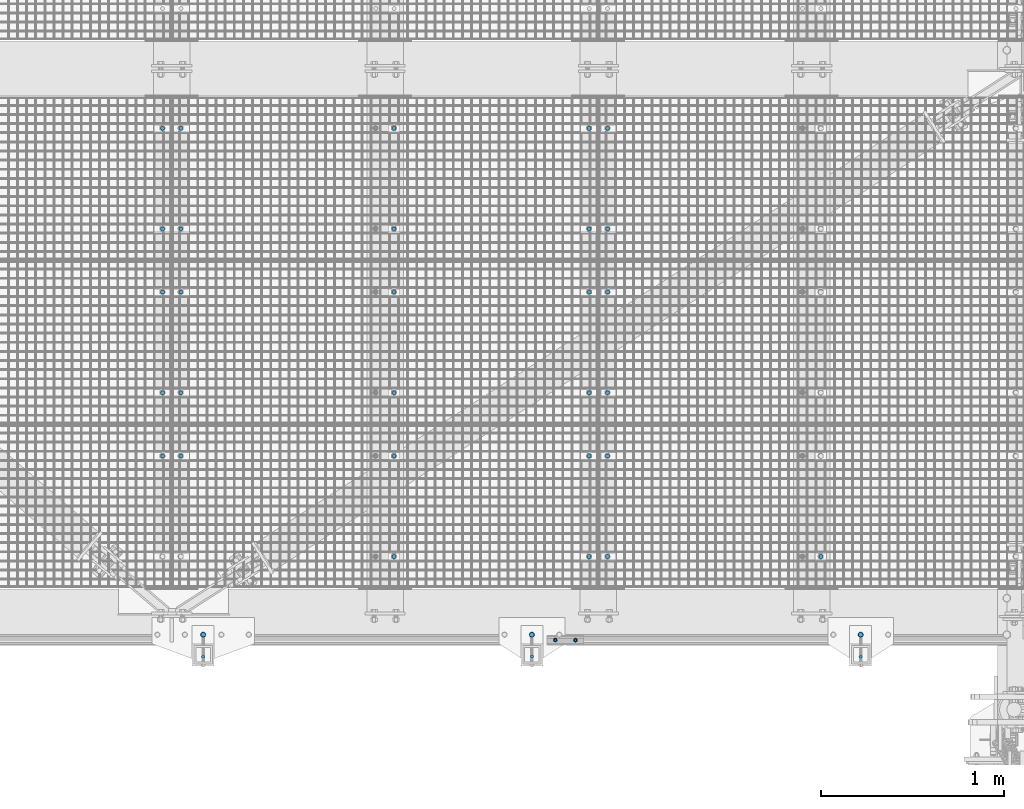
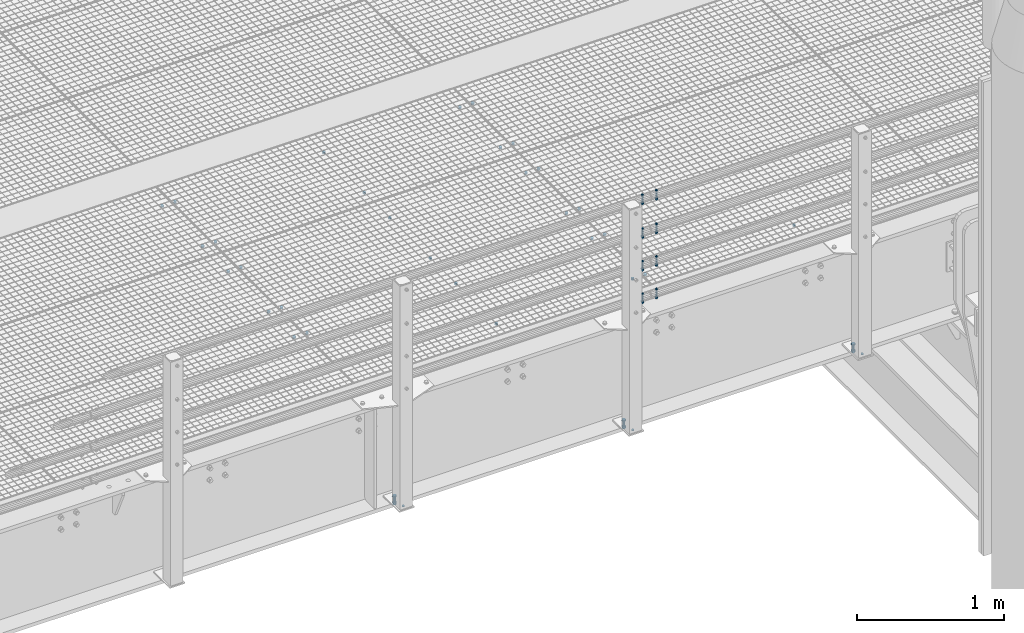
# One storey, part 66 of 1530: 43 mechanical fasteners.
"""IFC2X3 building model written with IfcOpenShell, lengths in millimetres."""

from ifc_helpers import new_model, si_unit, frame, origin_with_axes, place, context, subcontext, project, spatial, faceted_brep, source, transform, mapped, material, type_object, element, save


model = new_model("IFC2X3")

# Units and contexts
model_context = context("Model", 3, precision=1e-05, world=origin_with_axes())
body_context = subcontext(model_context, "Body", "Model", "MODEL_VIEW")
ifc_project = project(units=[si_unit("LENGTHUNIT", "METRE", prefix="MILLI"), si_unit("AREAUNIT", "SQUARE_METRE"), si_unit("VOLUMEUNIT", "CUBIC_METRE"), si_unit("MASSUNIT", "GRAM", prefix="KILO"), si_unit("TIMEUNIT", "SECOND"), si_unit("PLANEANGLEUNIT", "RADIAN"), si_unit("SOLIDANGLEUNIT", "STERADIAN"), si_unit("THERMODYNAMICTEMPERATUREUNIT", "DEGREE_CELSIUS"), si_unit("LUMINOUSINTENSITYUNIT", "LUMEN")], contexts=[model_context])

# Site, building, storey
site_placement = place(None, origin_with_axes())
site = spatial("IfcSite", under=ifc_project, at=site_placement, Name="Brattvåg", CompositionType="ELEMENT")
building_placement = place(site_placement, origin_with_axes())
building = spatial("IfcBuilding", under=site, at=building_placement, Name="Undefined", CompositionType="ELEMENT")
storey_placement = place(building_placement, origin_with_axes())
storey = spatial("IfcBuildingStorey", under=building, at=storey_placement, Name="Undefined", CompositionType="ELEMENT", Elevation=0.0)

# Mechanical fasteners
ifc_material = material(Name="8")
mechanical_fastener_type = type_object("IfcMechanicalFastenerType", Name="Bolt assembly")
shared_shape_1 = source(origin_with_axes(), body_context, "Body", "Brep", [
    faceted_brep([(11.0, -4.99999999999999, 0.0), (9.52627944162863, -4.99999999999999, 5.50000000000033), (5.49999999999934, -4.99999999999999, 9.5262794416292), (-1.13996957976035e-12, -4.99999999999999, 11.0), (-5.50000000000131, -4.99999999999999, 9.52627944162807), (-9.52627944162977, -4.99999999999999, 5.49999999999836), (-11.0, -4.99999999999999, -2.27993915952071e-12), (-9.5262794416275, -4.99999999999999, -5.5000000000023), (-5.49999999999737, -4.99999999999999, -9.52627944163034), (3.40769628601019e-12, -4.99999999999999, -11.0), (5.50000000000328, -4.99999999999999, -9.52627944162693), (9.52627944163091, -4.99999999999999, -5.49999999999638), (9.52627944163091, 10.1, -5.49999999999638), (5.50000000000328, 10.1, -9.52627944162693), (3.40769628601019e-12, 10.1, -11.0), (-5.49999999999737, 10.1, -9.52627944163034), (-9.5262794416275, 10.1, -5.5000000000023), (-11.0, 10.1, -2.27993915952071e-12), (-9.52627944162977, 10.1, 5.49999999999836), (-5.50000000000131, 10.1, 9.52627944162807), (-1.13996957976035e-12, 10.1, 11.0), (5.49999999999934, 10.1, 9.5262794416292), (9.52627944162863, 10.1, 5.50000000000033), (11.0, 10.1, 0.0)], [[[0, 1, 2, 3, 4, 5, 6, 7, 8, 9, 10, 11]], [[12, 13, 14, 15, 16, 17, 18, 19, 20, 21, 22, 23]], [[0, 23, 22, 1]], [[1, 22, 21, 2]], [[2, 21, 20, 3]], [[3, 20, 19, 4]], [[4, 19, 18, 5]], [[5, 18, 17, 6]], [[6, 17, 16, 7]], [[7, 16, 15, 8]], [[8, 15, 14, 9]], [[9, 14, 13, 10]], [[10, 13, 12, 11]], [[11, 12, 23, 0]]]),
])
for number, where, z_axis, x_axis, name in (
    (1, (9964.00477935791, 2121.98931152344, -35.0), (0.0, 1.0, 0.0), (1.0, 0.0, 0.0), "Bolt assembly"),
    (2, (9964.00477935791, 2671.99411010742, -35.0), (0.0, 1.0, 0.0), (1.0, 0.0, 0.0), "Bolt assembly"),
    (3, (9964.00477935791, 1224.98931152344, -35.0), (0.0, 1.0, 0.0), (1.0, 0.0, 0.0), "Bolt assembly"),
    (4, (9964.00477935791, 1774.99411010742, -35.0), (0.0, 1.0, 0.0), (1.0, 0.0, 0.0), "Bolt assembly"),
    (5, (9964.00477935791, 327.989311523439, -35.0), (0.0, 1.0, 0.0), (1.0, 0.0, 0.0), "Bolt assembly"),
    (6, (9964.00477935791, 877.994110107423, -35.0), (0.0, 1.0, 0.0), (1.0, 0.0, 0.0), "Bolt assembly"),
    (7, (11132.0119254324, 327.99, -35.0), (0.0, -1.0, 0.0), (-1.0, 1.99999855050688e-09, 0.0), "Bolt assembly"),
    (8, (7628.00477935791, 2121.98931152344, -35.0), (0.0, 1.0, 0.0), (1.0, 0.0, 0.0), "Bolt assembly"),
    (9, (7628.00477935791, 2671.99411010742, -35.0), (0.0, 1.0, 0.0), (1.0, 0.0, 0.0), "Bolt assembly"),
    (10, (9864.01487731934, 2671.99411010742, -35.0), (0.0, -1.0, 0.0), (-1.0, 1.99999855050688e-09, 0.0), "Bolt assembly"),
    (11, (9864.01487731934, 2121.9904864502, -35.0), (0.0, -1.0, 0.0), (-1.0, 1.99999855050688e-09, 0.0), "Bolt assembly"),
    (12, (8796.01456069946, 2671.99565124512, -35.0), (0.0, -1.0, 0.0), (-1.0, 1.99999855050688e-09, 0.0), "Bolt assembly"),
    (13, (8796.01192543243, 2121.99, -35.0), (0.0, -1.0, 0.0), (-1.0, 1.99999855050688e-09, 0.0), "Bolt assembly"),
    (14, (7628.00477935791, 1224.98931152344, -35.0), (0.0, 1.0, 0.0), (1.0, 0.0, 0.0), "Bolt assembly"),
    (15, (7628.00477935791, 1774.99411010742, -35.0), (0.0, 1.0, 0.0), (1.0, 0.0, 0.0), "Bolt assembly"),
    (16, (9864.01487731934, 1774.99411010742, -35.0), (0.0, -1.0, 0.0), (-1.0, 1.99999855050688e-09, 0.0), "Bolt assembly"),
    (17, (9864.01487731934, 1224.9904864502, -35.0), (0.0, -1.0, 0.0), (-1.0, 1.99999855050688e-09, 0.0), "Bolt assembly"),
    (18, (8796.01456069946, 1774.99565124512, -35.0), (0.0, -1.0, 0.0), (-1.0, 1.99999855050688e-09, 0.0), "Bolt assembly"),
    (19, (8796.01192543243, 1224.99, -35.0), (0.0, -1.0, 0.0), (-1.0, 1.99999855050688e-09, 0.0), "Bolt assembly"),
    (20, (7628.00477935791, 877.994110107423, -35.0), (0.0, 1.0, 0.0), (1.0, 0.0, 0.0), "Bolt assembly"),
    (21, (9864.01487731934, 877.994110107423, -35.0), (0.0, -1.0, 0.0), (-1.0, 1.99999855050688e-09, 0.0), "Bolt assembly"),
    (22, (9864.01487731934, 327.990486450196, -35.0), (0.0, -1.0, 0.0), (-1.0, 1.99999855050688e-09, 0.0), "Bolt assembly"),
    (23, (8796.01456069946, 877.995651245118, -35.0), (0.0, -1.0, 0.0), (-1.0, 1.99999855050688e-09, 0.0), "Bolt assembly"),
    (24, (8796.01192543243, 327.99, -35.0), (0.0, -1.0, 0.0), (-1.0, 1.99999855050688e-09, 0.0), "Bolt assembly"),
    (25, (7528.01487731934, 2671.99411010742, -35.0), (0.0, -1.0, 0.0), (-1.0, 1.99999855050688e-09, 0.0), "Bolt assembly"),
    (26, (7528.01487731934, 2121.9904864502, -35.0), (0.0, -1.0, 0.0), (-1.0, 1.99999855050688e-09, 0.0), "Bolt assembly"),
    (27, (7528.01487731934, 1774.99411010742, -35.0), (0.0, -1.0, 0.0), (-1.0, 1.99999855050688e-09, 0.0), "Bolt assembly"),
    (28, (7528.01487731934, 1224.9904864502, -35.0), (0.0, -1.0, 0.0), (-1.0, 1.99999855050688e-09, 0.0), "Bolt assembly"),
    (29, (7528.01487731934, 877.994110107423, -35.0), (0.0, -1.0, 0.0), (-1.0, 1.99999855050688e-09, 0.0), "Bolt assembly"),
):
    element("IfcMechanicalFastener", number, at=place(storey_placement, frame(where, z_axis=z_axis, x_axis=x_axis)), inside=storey, type_object=mechanical_fastener_type, material=ifc_material, Name=name, NominalDiameter=20.0, NominalLength=15.0, context=body_context, shape_type="MappedRepresentation", body=[
        mapped(shared_shape_1, transform((0.0, 0.0, 0.0))),
    ])
shared_shape_2 = source(origin_with_axes(), body_context, "Body", "Brep", [
    faceted_brep([(9.0, -0.000108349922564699, 0.0), (7.79422863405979, -0.000108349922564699, 4.50000000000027), (4.49999999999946, -0.000108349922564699, 7.79422863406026), (-9.3270238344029e-13, -0.000108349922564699, 9.0), (-4.50000000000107, -0.000108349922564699, 7.79422863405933), (-7.79422863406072, -0.000108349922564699, 4.49999999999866), (-9.0, -0.000108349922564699, -1.86540476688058e-12), (-7.79422863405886, -0.000108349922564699, -4.50000000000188), (-4.49999999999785, -0.000108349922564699, -7.79422863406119), (2.78811514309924e-12, -0.000108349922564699, -9.0), (4.50000000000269, -0.000108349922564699, -7.7942286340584), (7.79422863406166, -0.000108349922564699, -4.49999999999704), (7.79422863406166, 10.0998916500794, -4.49999999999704), (4.50000000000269, 10.0998916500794, -7.7942286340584), (2.78811514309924e-12, 10.0998916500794, -9.0), (-4.49999999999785, 10.0998916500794, -7.79422863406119), (-7.79422863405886, 10.0998916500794, -4.50000000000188), (-9.0, 10.0998916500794, -1.86540476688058e-12), (-7.79422863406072, 10.0998916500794, 4.49999999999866), (-4.50000000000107, 10.0998916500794, 7.79422863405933), (-9.3270238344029e-13, 10.0998916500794, 9.0), (4.49999999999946, 10.0998916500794, 7.79422863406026), (7.79422863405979, 10.0998916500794, 4.50000000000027), (9.0, 10.0998916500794, 0.0)], [[[0, 1, 2, 3, 4, 5, 6, 7, 8, 9, 10, 11]], [[12, 13, 14, 15, 16, 17, 18, 19, 20, 21, 22, 23]], [[0, 23, 22, 1]], [[1, 22, 21, 2]], [[2, 21, 20, 3]], [[3, 20, 19, 4]], [[4, 19, 18, 5]], [[5, 18, 17, 6]], [[6, 17, 16, 7]], [[7, 16, 15, 8]], [[8, 15, 14, 9]], [[9, 14, 13, 10]], [[10, 13, 12, 11]], [[11, 12, 23, 0]]]),
])
for number, where, z_axis, x_axis, name in (
    (30, (11350.0001602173, -219.999950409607, -845.000278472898), (-1.0, 1.99999855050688e-09, 0.0), (0.0, 0.999999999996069, 2.80400000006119e-06), "Bolt assembly"),
    (31, (9550.00016021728, -219.999950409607, -845.000278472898), (-1.0, 1.99999855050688e-09, 0.0), (0.0, 0.999999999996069, 2.80400000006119e-06), "Bolt assembly"),
    (32, (7750.00016021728, -219.999950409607, -845.000278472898), (-1.0, 1.99999855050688e-09, 0.0), (0.0, 0.999999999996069, 2.80400000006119e-06), "Bolt assembly"),
):
    element("IfcMechanicalFastener", number, at=place(storey_placement, frame(where, z_axis=z_axis, x_axis=x_axis)), inside=storey, type_object=mechanical_fastener_type, material=ifc_material, Name=name, NominalDiameter=16.0, NominalLength=10.0001087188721, context=body_context, shape_type="MappedRepresentation", body=[
        mapped(shared_shape_2, transform((0.0, 0.0, 0.0))),
    ])
shared_shape_3 = source(origin_with_axes(), body_context, "Body", "Brep", [
    faceted_brep([(6.49435320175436, -7.50000000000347, 0.0), (4.59220118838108, -7.50000000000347, 4.59220118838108), (3.97664443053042e-16, -7.50000000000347, 6.49435320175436), (-4.59220118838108, -7.50000000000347, 4.59220118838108), (-6.49435320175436, -7.50000000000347, 7.95328886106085e-16), (-4.59220118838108, -7.50000000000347, -4.59220118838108), (-1.19299332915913e-15, -7.50000000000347, -6.49435320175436), (4.59220118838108, -7.50000000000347, -4.59220118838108), (7.34846922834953, -3.46744855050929e-12, -7.34846922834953), (-1.90903542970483e-15, -3.46744855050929e-12, -10.3923048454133), (-7.34846922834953, -3.46744855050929e-12, -7.34846922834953), (-10.3923048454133, 3.46808519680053e-07, 1.27269028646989e-15), (-7.34846922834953, -3.46744855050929e-12, 7.34846922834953), (6.36345143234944e-16, -3.46744855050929e-12, 10.3923048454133), (7.34846922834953, -3.46744855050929e-12, 7.34846922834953), (10.3923048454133, 3.46808519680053e-07, 0.0), (6.0, 3.46808519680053e-07, 0.0), (5.19615242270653, 3.46808519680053e-07, 3.00000000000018), (2.99999999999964, 3.46808519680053e-07, 5.19615242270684), (-6.21801588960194e-13, 3.46808519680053e-07, 6.0), (-3.00000000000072, 3.46808519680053e-07, 5.19615242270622), (-5.19615242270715, 3.46808519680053e-07, 2.9999999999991), (-6.0, 3.46808519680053e-07, -1.24360317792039e-12), (-5.19615242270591, 3.46808519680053e-07, -3.00000000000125), (-2.99999999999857, 3.46808519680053e-07, -5.19615242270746), (1.85874342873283e-12, 3.46808519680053e-07, -6.0), (3.00000000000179, 3.46808519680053e-07, -5.1961524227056), (5.19615242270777, 3.46808519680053e-07, -2.99999999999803), (5.19615242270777, 79.9999999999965, -2.99999999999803), (3.00000000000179, 79.9999999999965, -5.1961524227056), (1.85874342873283e-12, 79.9999999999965, -6.0), (-2.99999999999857, 79.9999999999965, -5.19615242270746), (-5.19615242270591, 79.9999999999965, -3.00000000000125), (-6.0, 79.9999999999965, -1.24360317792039e-12), (-5.19615242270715, 79.9999999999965, 2.9999999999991), (-3.00000000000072, 79.9999999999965, 5.19615242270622), (-6.21801588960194e-13, 79.9999999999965, 6.0), (2.99999999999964, 79.9999999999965, 5.19615242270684), (5.19615242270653, 79.9999999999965, 3.00000000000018), (6.0, 79.9999999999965, 0.0), (12.0, 60.2988956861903, 0.0), (10.3923048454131, 60.2988956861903, 6.00000000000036), (5.99999999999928, 60.2988956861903, 10.3923048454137), (-1.24360317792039e-12, 60.2988956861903, 12.0), (-6.00000000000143, 60.2988956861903, 10.3923048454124), (-10.3923048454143, 60.2988956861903, 5.99999999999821), (-12.0, 60.2988956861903, -2.48720635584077e-12), (-10.3923048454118, 60.2988956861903, -6.00000000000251), (-5.99999999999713, 60.2988956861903, -10.3923048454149), (3.71748685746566e-12, 60.2988956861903, -12.0), (6.00000000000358, 60.2988956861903, -10.3923048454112), (10.3923048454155, 60.2988956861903, -5.99999999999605), (10.3923048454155, 62.7988956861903, -5.99999999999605), (6.00000000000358, 62.7988956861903, -10.3923048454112), (3.71748685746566e-12, 62.7988956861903, -12.0), (-5.99999999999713, 62.7988956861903, -10.3923048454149), (-10.3923048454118, 62.7988956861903, -6.00000000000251), (-12.0, 62.7988956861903, -2.48720635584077e-12), (-10.3923048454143, 62.7988956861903, 5.99999999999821), (-6.00000000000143, 62.7988956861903, 10.3923048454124), (-1.24360317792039e-12, 62.7988956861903, 12.0), (5.99999999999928, 62.7988956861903, 10.3923048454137), (10.3923048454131, 62.7988956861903, 6.00000000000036), (12.0, 62.7988956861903, 0.0), (10.9696551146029, 62.7988956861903, 0.0), (5.48482755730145, 62.7988956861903, 9.5), (-5.48482755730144, 62.7988956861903, 9.5), (-10.9696551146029, 62.7988956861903, 1.34339530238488e-15), (-5.48482755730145, 62.7988956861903, -9.5), (5.48482755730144, 62.7988956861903, -9.5), (5.48482755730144, 73.5988958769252, -9.5), (-5.48482755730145, 73.5988958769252, -9.5), (-10.9696551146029, 73.5988958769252, 1.34339530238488e-15), (-5.48482755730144, 73.5988958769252, 9.5), (5.48482755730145, 73.5988958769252, 9.5), (10.9696551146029, 73.5988958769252, 0.0)], [[[0, 1, 2, 3, 4, 5, 6, 7]], [[8, 9, 10, 11, 12, 13, 14, 15]], [[0, 15, 14, 1]], [[1, 14, 13, 2]], [[2, 13, 12, 3]], [[3, 12, 11, 4]], [[4, 11, 10, 5]], [[5, 10, 9, 6]], [[6, 9, 8, 7]], [[7, 8, 15, 0]], [[16, 17, 18, 19, 20, 21, 22, 23, 24, 25, 26, 27]], [[28, 29, 30, 31, 32, 33, 34, 35, 36, 37, 38, 39]], [[16, 39, 38, 17]], [[17, 38, 37, 18]], [[18, 37, 36, 19]], [[19, 36, 35, 20]], [[20, 35, 34, 21]], [[21, 34, 33, 22]], [[22, 33, 32, 23]], [[23, 32, 31, 24]], [[24, 31, 30, 25]], [[25, 30, 29, 26]], [[26, 29, 28, 27]], [[27, 28, 39, 16]], [[40, 41, 42, 43, 44, 45, 46, 47, 48, 49, 50, 51]], [[52, 53, 54, 55, 56, 57, 58, 59, 60, 61, 62, 63]], [[40, 63, 62, 41]], [[41, 62, 61, 42]], [[42, 61, 60, 43]], [[43, 60, 59, 44]], [[44, 59, 58, 45]], [[45, 58, 57, 46]], [[46, 57, 56, 47]], [[47, 56, 55, 48]], [[48, 55, 54, 49]], [[49, 54, 53, 50]], [[50, 53, 52, 51]], [[51, 52, 63, 40]], [[64, 65, 66, 67, 68, 69]], [[70, 71, 72, 73, 74, 75]], [[64, 75, 74, 65]], [[65, 74, 73, 66]], [[66, 73, 72, 67]], [[67, 72, 71, 68]], [[68, 71, 70, 69]], [[69, 70, 75, 64]]]),
    faceted_brep([(6.5, 0.100000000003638, 0.0), (5.62916512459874, 0.100000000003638, 3.25000000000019), (3.24999999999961, 0.100000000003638, 5.62916512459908), (-6.7361838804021e-13, 0.100000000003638, 6.5), (-3.25000000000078, 0.100000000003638, 5.6291651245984), (-5.62916512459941, 0.100000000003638, 3.24999999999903), (-6.5, 0.100000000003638, -1.34723677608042e-12), (-5.62916512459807, 0.100000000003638, -3.25000000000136), (-3.24999999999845, 0.100000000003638, -5.62916512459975), (2.01363871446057e-12, 0.100000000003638, -6.5), (3.25000000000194, 0.100000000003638, -5.62916512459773), (5.62916512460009, 0.100000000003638, -3.24999999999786), (5.62916512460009, 60.3988956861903, -3.24999999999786), (3.25000000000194, 60.3988956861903, -5.62916512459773), (2.01363871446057e-12, 60.3988956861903, -6.5), (-3.24999999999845, 60.3988956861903, -5.62916512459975), (-5.62916512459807, 60.3988956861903, -3.25000000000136), (-6.5, 60.3988956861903, -1.34723677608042e-12), (-5.62916512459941, 60.3988956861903, 3.24999999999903), (-3.25000000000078, 60.3988956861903, 5.6291651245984), (-6.7361838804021e-13, 60.3988956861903, 6.5), (3.24999999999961, 60.3988956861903, 5.62916512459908), (5.62916512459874, 60.3988956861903, 3.25000000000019), (6.5, 60.3988956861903, 0.0), (6.5, 4.25026510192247, 0.0), (5.62916512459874, 4.25026510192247, 3.25000000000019), (3.24999999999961, 4.25026510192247, 5.62916512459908), (-6.7361838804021e-13, 4.25026510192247, 6.5), (-3.25000000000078, 4.25026510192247, 5.6291651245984), (-5.62916512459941, 4.25026510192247, 3.24999999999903), (-6.5, 4.25026510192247, -1.34723677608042e-12), (-5.62916512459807, 4.25026510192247, -3.25000000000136), (-3.24999999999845, 4.25026510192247, -5.62916512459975), (2.01363871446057e-12, 4.25026510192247, -6.5), (3.25000000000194, 4.25026510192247, -5.62916512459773), (5.62916512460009, 4.25026510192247, -3.24999999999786), (5.62916512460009, 55.3491717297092, -3.24999999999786), (3.25000000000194, 55.3491717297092, -5.62916512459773), (2.01363871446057e-12, 55.3491717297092, -6.5), (-3.24999999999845, 55.3491717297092, -5.62916512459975), (-5.62916512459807, 55.3491717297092, -3.25000000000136), (-6.5, 55.3491717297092, -1.34723677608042e-12), (-5.62916512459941, 55.3491717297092, 3.24999999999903), (-3.25000000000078, 55.3491717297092, 5.6291651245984), (-6.7361838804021e-13, 55.3491717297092, 6.5), (3.24999999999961, 55.3491717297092, 5.62916512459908), (5.62916512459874, 55.3491717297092, 3.25000000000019), (6.5, 55.3491717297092, 0.0)], [[[0, 1, 2, 3, 4, 5, 6, 7, 8, 9, 10, 11]], [[12, 13, 14, 15, 16, 17, 18, 19, 20, 21, 22, 23]], [[0, 23, 22, 1]], [[1, 22, 21, 2]], [[2, 21, 20, 3]], [[3, 20, 19, 4]], [[4, 19, 18, 5]], [[5, 18, 17, 6]], [[6, 17, 16, 7]], [[7, 16, 15, 8]], [[8, 15, 14, 9]], [[9, 14, 13, 10]], [[10, 13, 12, 11]], [[11, 12, 23, 0]], [[24, 25, 26, 27, 28, 29, 30, 31, 32, 33, 34, 35]], [[36, 37, 38, 39, 40, 41, 42, 43, 44, 45, 46, 47]], [[24, 47, 46, 25]], [[25, 46, 45, 26]], [[26, 45, 44, 27]], [[27, 44, 43, 28]], [[28, 43, 42, 29]], [[29, 42, 41, 30]], [[30, 41, 40, 31]], [[31, 40, 39, 32]], [[32, 39, 38, 33]], [[33, 38, 37, 34]], [[34, 37, 36, 35]], [[35, 36, 47, 24]]]),
])
for number, where, z_axis, x_axis, name in (
    (33, (9678.00013732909, -129.849880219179, 179.7000579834), (-1.0, 1.99999855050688e-09, 0.0), (0.0, 0.999999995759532, -9.2091999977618e-05), "Bolt assembly"),
    (34, (9678.00013732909, -129.849880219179, 449.7000579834), (-1.0, 1.99999855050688e-09, 0.0), (0.0, 0.999999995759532, -9.2091999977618e-05), "Bolt assembly"),
    (35, (9678.00013732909, -129.849880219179, 719.7000579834), (-1.0, 1.99999855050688e-09, 0.0), (0.0, 0.999999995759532, -9.2091999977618e-05), "Bolt assembly"),
    (36, (9787.99986267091, -129.849880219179, 179.7000579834), (-1.0, 1.99999855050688e-09, 0.0), (0.0, 0.999999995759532, -9.2091999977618e-05), "Bolt assembly"),
    (37, (9787.99986267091, -129.849880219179, 449.7000579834), (-1.0, 1.99999855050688e-09, 0.0), (0.0, 0.999999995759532, -9.2091999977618e-05), "Bolt assembly"),
    (38, (9787.99986267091, -129.849880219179, 719.7000579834), (-1.0, 1.99999855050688e-09, 0.0), (0.0, 0.999999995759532, -9.2091999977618e-05), "Bolt assembly"),
    (39, (9678.00013732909, -129.849880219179, 999.7000579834), (-1.0, 1.99999855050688e-09, 0.0), (0.0, 0.999999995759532, -9.2091999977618e-05), "Bolt assembly"),
    (40, (9787.99986267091, -129.849880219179, 999.7000579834), (-1.0, 1.99999855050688e-09, 0.0), (0.0, 0.999999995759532, -9.2091999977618e-05), "Bolt assembly"),
):
    element("IfcMechanicalFastener", number, at=place(storey_placement, frame(where, z_axis=z_axis, x_axis=x_axis)), inside=storey, type_object=mechanical_fastener_type, material=ifc_material, Name=name, NominalDiameter=12.0, NominalLength=80.0, context=body_context, shape_type="MappedRepresentation", body=[
        mapped(shared_shape_3, transform((0.0, 0.0, 0.0))),
    ])
shared_shape_4 = source(origin_with_axes(), body_context, "Body", "Brep", [
    faceted_brep([(13.856406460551, -12.9998916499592, 0.0), (6.92820323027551, -12.9998916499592, 12.0), (-6.92820323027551, -12.9998916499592, 12.0), (-13.856406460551, -12.9998916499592, 1.69692038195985e-15), (-6.92820323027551, -12.9998916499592, -12.0), (6.9282032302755, -12.9998916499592, -12.0), (6.9282032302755, -2.99989164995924, -12.0), (-6.92820323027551, -2.99989164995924, -12.0), (-13.856406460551, -2.99989164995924, 1.69692038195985e-15), (-6.92820323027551, -2.99989164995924, 12.0), (6.92820323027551, -2.99989164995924, 12.0), (13.856406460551, -2.99989164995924, 0.0), (8.0, -2.99989164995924, 0.0), (6.92820323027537, -2.99989164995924, 4.00000000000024), (3.99999999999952, -2.99989164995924, 6.92820323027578), (-8.29068785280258e-13, -2.99989164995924, 8.0), (-4.00000000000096, -2.99989164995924, 6.92820323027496), (-6.9282032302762, -2.99989164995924, 3.99999999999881), (-8.0, -2.99989164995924, -1.65813757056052e-12), (-6.92820323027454, -2.99989164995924, -4.00000000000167), (-3.99999999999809, -2.99989164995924, -6.92820323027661), (2.47832457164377e-12, -2.99989164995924, -8.0), (4.00000000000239, -2.99989164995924, -6.92820323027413), (6.92820323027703, -2.99989164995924, -3.99999999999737), (6.92820323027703, 67.0001083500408, -3.99999999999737), (4.00000000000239, 67.0001083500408, -6.92820323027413), (2.47832457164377e-12, 67.0001083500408, -8.0), (-3.99999999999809, 67.0001083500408, -6.92820323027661), (-6.92820323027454, 67.0001083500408, -4.00000000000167), (-8.0, 67.0001083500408, -1.65813757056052e-12), (-6.9282032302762, 67.0001083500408, 3.99999999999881), (-4.00000000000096, 67.0001083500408, 6.92820323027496), (-8.29068785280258e-13, 67.0001083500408, 8.0), (3.99999999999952, 67.0001083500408, 6.92820323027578), (6.92820323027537, 67.0001083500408, 4.00000000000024), (8.0, 67.0001083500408, 0.0), (15.0, -2.99989164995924, 0.0), (12.9903810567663, -2.99989164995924, 7.50000000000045), (7.4999999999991, -2.99989164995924, 12.9903810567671), (-1.55450397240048e-12, -2.99989164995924, 15.0), (-7.50000000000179, -2.99989164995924, 12.9903810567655), (-12.9903810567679, -2.99989164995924, 7.49999999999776), (-15.0, -2.99989164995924, -3.10900794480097e-12), (-12.9903810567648, -2.99989164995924, -7.50000000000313), (-7.49999999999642, -2.99989164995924, -12.9903810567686), (4.64685857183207e-12, -2.99989164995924, -15.0), (7.50000000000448, -2.99989164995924, -12.990381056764), (12.9903810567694, -2.99989164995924, -7.49999999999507), (12.9903810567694, 0.000108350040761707, -7.49999999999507), (7.50000000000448, 0.000108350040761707, -12.990381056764), (4.64685857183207e-12, 0.000108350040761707, -15.0), (-7.49999999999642, 0.000108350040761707, -12.9903810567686), (-12.9903810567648, 0.000108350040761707, -7.50000000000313), (-15.0, 0.000108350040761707, -3.10900794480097e-12), (-12.9903810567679, 0.000108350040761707, 7.49999999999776), (-7.50000000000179, 0.000108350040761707, 12.9903810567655), (-1.55450397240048e-12, 0.000108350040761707, 15.0), (7.4999999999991, 0.000108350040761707, 12.9903810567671), (12.9903810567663, 0.000108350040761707, 7.50000000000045), (15.0, 0.000108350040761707, 0.0), (15.0, 45.0001982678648, 0.0), (12.9903810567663, 45.0001982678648, 7.50000000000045), (7.4999999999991, 45.0001982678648, 12.9903810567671), (-1.55450397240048e-12, 45.0001982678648, 15.0), (-7.50000000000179, 45.0001982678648, 12.9903810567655), (-12.9903810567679, 45.0001982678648, 7.49999999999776), (-15.0, 45.0001982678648, -3.10900794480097e-12), (-12.9903810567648, 45.0001982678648, -7.50000000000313), (-7.49999999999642, 45.0001982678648, -12.9903810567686), (4.64685857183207e-12, 45.0001982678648, -15.0), (7.50000000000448, 45.0001982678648, -12.990381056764), (12.9903810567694, 45.0001982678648, -7.49999999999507), (12.9903810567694, 48.0001982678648, -7.49999999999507), (7.50000000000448, 48.0001982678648, -12.990381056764), (4.64685857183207e-12, 48.0001982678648, -15.0), (-7.49999999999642, 48.0001982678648, -12.9903810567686), (-12.9903810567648, 48.0001982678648, -7.50000000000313), (-15.0, 48.0001982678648, -3.10900794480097e-12), (-12.9903810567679, 48.0001982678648, 7.49999999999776), (-7.50000000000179, 48.0001982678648, 12.9903810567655), (-1.55450397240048e-12, 48.0001982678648, 15.0), (7.4999999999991, 48.0001982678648, 12.9903810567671), (12.9903810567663, 48.0001982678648, 7.50000000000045), (15.0, 48.0001982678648, 0.0), (13.856406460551, 48.0001982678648, 0.0), (6.92820323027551, 48.0001982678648, 12.0), (-6.92820323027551, 48.0001982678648, 12.0), (-13.856406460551, 48.0001982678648, 1.69692038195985e-15), (-6.92820323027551, 48.0001982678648, -12.0), (6.9282032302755, 48.0001982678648, -12.0), (6.9282032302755, 62.8001984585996, -12.0), (-6.92820323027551, 62.8001984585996, -12.0), (-13.856406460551, 62.8001984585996, 1.69692038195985e-15), (-6.92820323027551, 62.8001984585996, 12.0), (6.92820323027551, 62.8001984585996, 12.0), (13.856406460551, 62.8001984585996, 0.0)], [[[0, 1, 2, 3, 4, 5]], [[6, 7, 8, 9, 10, 11]], [[0, 11, 10, 1]], [[1, 10, 9, 2]], [[2, 9, 8, 3]], [[3, 8, 7, 4]], [[4, 7, 6, 5]], [[5, 6, 11, 0]], [[12, 13, 14, 15, 16, 17, 18, 19, 20, 21, 22, 23]], [[24, 25, 26, 27, 28, 29, 30, 31, 32, 33, 34, 35]], [[12, 35, 34, 13]], [[13, 34, 33, 14]], [[14, 33, 32, 15]], [[15, 32, 31, 16]], [[16, 31, 30, 17]], [[17, 30, 29, 18]], [[18, 29, 28, 19]], [[19, 28, 27, 20]], [[20, 27, 26, 21]], [[21, 26, 25, 22]], [[22, 25, 24, 23]], [[23, 24, 35, 12]], [[36, 37, 38, 39, 40, 41, 42, 43, 44, 45, 46, 47]], [[48, 49, 50, 51, 52, 53, 54, 55, 56, 57, 58, 59]], [[36, 59, 58, 37]], [[37, 58, 57, 38]], [[38, 57, 56, 39]], [[39, 56, 55, 40]], [[40, 55, 54, 41]], [[41, 54, 53, 42]], [[42, 53, 52, 43]], [[43, 52, 51, 44]], [[44, 51, 50, 45]], [[45, 50, 49, 46]], [[46, 49, 48, 47]], [[47, 48, 59, 36]], [[60, 61, 62, 63, 64, 65, 66, 67, 68, 69, 70, 71]], [[72, 73, 74, 75, 76, 77, 78, 79, 80, 81, 82, 83]], [[60, 83, 82, 61]], [[61, 82, 81, 62]], [[62, 81, 80, 63]], [[63, 80, 79, 64]], [[64, 79, 78, 65]], [[65, 78, 77, 66]], [[66, 77, 76, 67]], [[67, 76, 75, 68]], [[68, 75, 74, 69]], [[69, 74, 73, 70]], [[70, 73, 72, 71]], [[71, 72, 83, 60]], [[84, 85, 86, 87, 88, 89]], [[90, 91, 92, 93, 94, 95]], [[84, 95, 94, 85]], [[85, 94, 93, 86]], [[86, 93, 92, 87]], [[87, 92, 91, 88]], [[88, 91, 90, 89]], [[89, 90, 95, 84]]]),
    faceted_brep([(9.0, 0.100108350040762, 0.0), (7.79422863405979, 0.100108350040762, 4.50000000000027), (4.49999999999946, 0.100108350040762, 7.79422863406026), (-9.3270238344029e-13, 0.100108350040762, 9.0), (-4.50000000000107, 0.100108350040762, 7.79422863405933), (-7.79422863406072, 0.100108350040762, 4.49999999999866), (-9.0, 0.100108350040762, -1.86540476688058e-12), (-7.79422863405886, 0.100108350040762, -4.50000000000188), (-4.49999999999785, 0.100108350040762, -7.79422863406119), (2.78811514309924e-12, 0.100108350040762, -9.0), (4.50000000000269, 0.100108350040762, -7.7942286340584), (7.79422863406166, 0.100108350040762, -4.49999999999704), (7.79422863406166, 10.10010835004, -4.49999999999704), (4.50000000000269, 10.10010835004, -7.7942286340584), (2.78811514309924e-12, 10.10010835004, -9.0), (-4.49999999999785, 10.10010835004, -7.79422863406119), (-7.79422863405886, 10.10010835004, -4.50000000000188), (-9.0, 10.10010835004, -1.86540476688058e-12), (-7.79422863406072, 10.10010835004, 4.49999999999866), (-4.50000000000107, 10.10010835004, 7.79422863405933), (-9.3270238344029e-13, 10.10010835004, 9.0), (4.49999999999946, 10.10010835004, 7.79422863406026), (7.79422863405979, 10.10010835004, 4.50000000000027), (9.0, 10.10010835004, 0.0), (9.0, 10.0002383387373, 0.0), (7.79422863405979, 10.0002383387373, 4.50000000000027), (4.49999999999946, 10.0002383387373, 7.79422863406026), (-9.3270238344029e-13, 10.0002383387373, 9.0), (-4.50000000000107, 10.0002383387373, 7.79422863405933), (-7.79422863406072, 10.0002383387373, 4.49999999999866), (-9.0, 10.0002383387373, -1.86540476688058e-12), (-7.79422863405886, 10.0002383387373, -4.50000000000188), (-4.49999999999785, 10.0002383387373, -7.79422863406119), (2.78811514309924e-12, 10.0002383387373, -9.0), (4.50000000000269, 10.0002383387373, -7.7942286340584), (7.79422863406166, 10.0002383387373, -4.49999999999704), (7.79422863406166, 15.000238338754, -4.49999999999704), (4.50000000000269, 15.000238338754, -7.7942286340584), (2.78811514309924e-12, 15.000238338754, -9.0), (-4.49999999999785, 15.000238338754, -7.79422863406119), (-7.79422863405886, 15.000238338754, -4.50000000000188), (-9.0, 15.000238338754, -1.86540476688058e-12), (-7.79422863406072, 15.000238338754, 4.49999999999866), (-4.50000000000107, 15.000238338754, 7.79422863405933), (-9.3270238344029e-13, 15.000238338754, 9.0), (4.49999999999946, 15.000238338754, 7.79422863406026), (7.79422863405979, 15.000238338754, 4.50000000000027), (9.0, 15.000238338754, 0.0), (9.0, 14.9001982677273, 0.0), (7.79422863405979, 14.9001982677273, 4.50000000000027), (4.49999999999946, 14.9001982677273, 7.79422863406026), (-9.3270238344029e-13, 14.9001982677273, 9.0), (-4.50000000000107, 14.9001982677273, 7.79422863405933), (-7.79422863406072, 14.9001982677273, 4.49999999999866), (-9.0, 14.9001982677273, -1.86540476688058e-12), (-7.79422863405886, 14.9001982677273, -4.50000000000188), (-4.49999999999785, 14.9001982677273, -7.79422863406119), (2.78811514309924e-12, 14.9001982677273, -9.0), (4.50000000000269, 14.9001982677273, -7.7942286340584), (7.79422863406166, 14.9001982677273, -4.49999999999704), (7.79422863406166, 45.0001982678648, -4.49999999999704), (4.50000000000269, 45.0001982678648, -7.7942286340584), (2.78811514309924e-12, 45.0001982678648, -9.0), (-4.49999999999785, 45.0001982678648, -7.79422863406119), (-7.79422863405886, 45.0001982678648, -4.50000000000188), (-9.0, 45.0001982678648, -1.86540476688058e-12), (-7.79422863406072, 45.0001982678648, 4.49999999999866), (-4.50000000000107, 45.0001982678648, 7.79422863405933), (-9.3270238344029e-13, 45.0001982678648, 9.0), (4.49999999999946, 45.0001982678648, 7.79422863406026), (7.79422863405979, 45.0001982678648, 4.50000000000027), (9.0, 45.0001982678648, 0.0)], [[[0, 1, 2, 3, 4, 5, 6, 7, 8, 9, 10, 11]], [[12, 13, 14, 15, 16, 17, 18, 19, 20, 21, 22, 23]], [[0, 23, 22, 1]], [[1, 22, 21, 2]], [[2, 21, 20, 3]], [[3, 20, 19, 4]], [[4, 19, 18, 5]], [[5, 18, 17, 6]], [[6, 17, 16, 7]], [[7, 16, 15, 8]], [[8, 15, 14, 9]], [[9, 14, 13, 10]], [[10, 13, 12, 11]], [[11, 12, 23, 0]], [[24, 25, 26, 27, 28, 29, 30, 31, 32, 33, 34, 35]], [[36, 37, 38, 39, 40, 41, 42, 43, 44, 45, 46, 47]], [[24, 47, 46, 25]], [[25, 46, 45, 26]], [[26, 45, 44, 27]], [[27, 44, 43, 28]], [[28, 43, 42, 29]], [[29, 42, 41, 30]], [[30, 41, 40, 31]], [[31, 40, 39, 32]], [[32, 39, 38, 33]], [[33, 38, 37, 34]], [[34, 37, 36, 35]], [[35, 36, 47, 24]], [[48, 49, 50, 51, 52, 53, 54, 55, 56, 57, 58, 59]], [[60, 61, 62, 63, 64, 65, 66, 67, 68, 69, 70, 71]], [[48, 71, 70, 49]], [[49, 70, 69, 50]], [[50, 69, 68, 51]], [[51, 68, 67, 52]], [[52, 67, 66, 53]], [[53, 66, 65, 54]], [[54, 65, 64, 55]], [[55, 64, 63, 56]], [[56, 63, 62, 57]], [[57, 62, 61, 58]], [[58, 61, 60, 59]], [[59, 60, 71, 48]]]),
])
for number, where, z_axis, x_axis, name in (
    (41, (7750.00016021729, -99.9996833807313, -844.999801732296), (1.0, 0.0, 0.0), (0.0, -0.999999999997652, -2.16700000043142e-06), "Bolt assembly"),
    (42, (9550.00016021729, -99.9996833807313, -844.999801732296), (1.0, 0.0, 0.0), (0.0, -0.999999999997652, -2.16700000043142e-06), "Bolt assembly"),
    (43, (11350.0001602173, -99.9996833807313, -844.999801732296), (1.0, 0.0, 0.0), (0.0, -0.999999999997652, -2.16700000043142e-06), "Bolt assembly"),
):
    element("IfcMechanicalFastener", number, at=place(storey_placement, frame(where, z_axis=z_axis, x_axis=x_axis)), inside=storey, type_object=mechanical_fastener_type, material=ifc_material, Name=name, NominalDiameter=16.0, NominalLength=70.0, context=body_context, shape_type="MappedRepresentation", body=[
        mapped(shared_shape_4, transform((0.0, 0.0, 0.0))),
    ])

save(model, "model.ifc")
